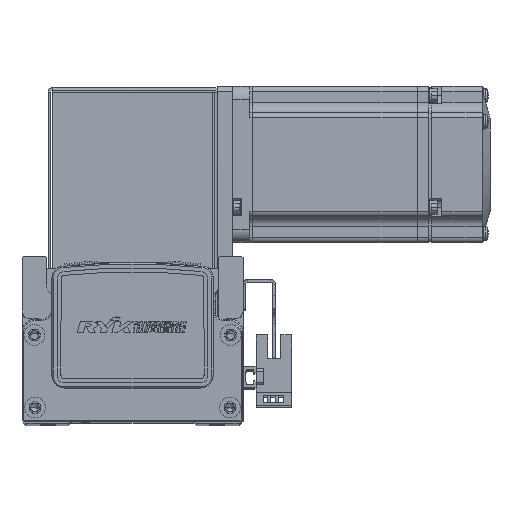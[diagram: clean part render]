
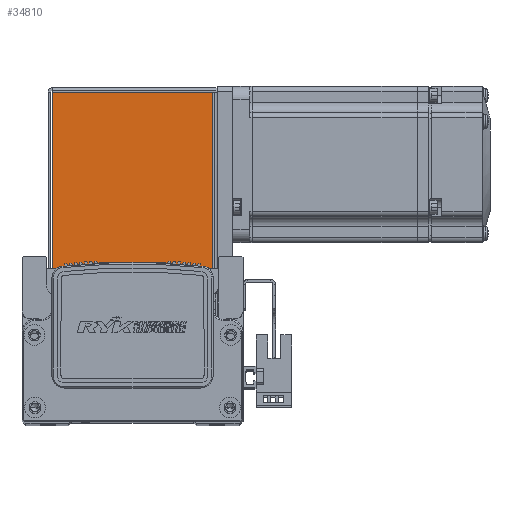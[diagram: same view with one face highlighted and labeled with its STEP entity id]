
A CAD part, top view. The second image highlights one B-rep face of the part: STEP entity #34810.
In plain terms, the highlighted planar face has unit normal (0, 0, 1) as drawn and (0, 0, -1) by its records, which use the part's own axes.
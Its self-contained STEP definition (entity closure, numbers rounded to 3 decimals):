
#5183 = EDGE_CURVE ( 'NONE', #24626, #24630, #13518, .T. ) ;
#5210 = EDGE_CURVE ( 'NONE', #24633, #24668, #13580, .T. ) ;
#5250 = EDGE_CURVE ( 'NONE', #24668, #24626, #13615, .T. ) ;
#5270 = EDGE_CURVE ( 'NONE', #24633, #24630, #13723, .T. ) ;
#11436 = CARTESIAN_POINT ( 'NONE',  ( 30.763, 68.5, -35. ) ) ;
#11442 = DIRECTION ( 'NONE',  ( 0., -1., 0. ) ) ;
#11692 = CARTESIAN_POINT ( 'NONE',  ( -30.793, 0., -35. ) ) ;
#11706 = DIRECTION ( 'NONE',  ( 0., 1., 0. ) ) ;
#11872 = CARTESIAN_POINT ( 'NONE',  ( 0., 68.5, -35. ) ) ;
#11892 = DIRECTION ( 'NONE',  ( 1., 0., 0. ) ) ;
#12029 = CARTESIAN_POINT ( 'NONE',  ( 32.5, 0.737, -35. ) ) ;
#12041 = DIRECTION ( 'NONE',  ( 1., 0., 0. ) ) ;
#13518 = LINE ( 'NONE', #11436, #13554 ) ;
#13546 = VECTOR ( 'NONE', #11706, 1000. ) ;
#13554 = VECTOR ( 'NONE', #11442, 1000. ) ;
#13580 = LINE ( 'NONE', #11692, #13546 ) ;
#13615 = LINE ( 'NONE', #11872, #13649 ) ;
#13649 = VECTOR ( 'NONE', #11892, 1000. ) ;
#13723 = LINE ( 'NONE', #12029, #13724 ) ;
#13724 = VECTOR ( 'NONE', #12041, 1000. ) ;
#17152 = ORIENTED_EDGE ( 'NONE', *, *, #5250, .T. ) ;
#17208 = ORIENTED_EDGE ( 'NONE', *, *, #5183, .T. ) ;
#17237 = ORIENTED_EDGE ( 'NONE', *, *, #5270, .F. ) ;
#17239 = ORIENTED_EDGE ( 'NONE', *, *, #5210, .T. ) ;
#24626 = VERTEX_POINT ( 'NONE', #38489 ) ;
#24630 = VERTEX_POINT ( 'NONE', #38552 ) ;
#24633 = VERTEX_POINT ( 'NONE', #38541 ) ;
#24668 = VERTEX_POINT ( 'NONE', #38545 ) ;
#30281 = EDGE_LOOP ( 'NONE', ( #17208, #17237, #17239, #17152 ) ) ;
#34810 = ADVANCED_FACE ( 'NONE', ( #57241 ), #43397, .F. ) ;
#38489 = CARTESIAN_POINT ( 'NONE',  ( 30.763, 68.5, -35. ) ) ;
#38541 = CARTESIAN_POINT ( 'NONE',  ( -30.793, 0.737, -35. ) ) ;
#38545 = CARTESIAN_POINT ( 'NONE',  ( -30.793, 68.5, -35. ) ) ;
#38552 = CARTESIAN_POINT ( 'NONE',  ( 30.763, 0.737, -35. ) ) ;
#43295 = CARTESIAN_POINT ( 'NONE',  ( 0., 0., -35. ) ) ;
#43298 = DIRECTION ( 'NONE',  ( 0., 0., 1. ) ) ;
#43300 = DIRECTION ( 'NONE',  ( 0., -1., 0. ) ) ;
#43397 = PLANE ( 'NONE',  #47193 ) ;
#47193 = AXIS2_PLACEMENT_3D ( 'NONE', #43295, #43298, #43300 ) ;
#57241 = FACE_OUTER_BOUND ( 'NONE', #30281, .T. ) ;
